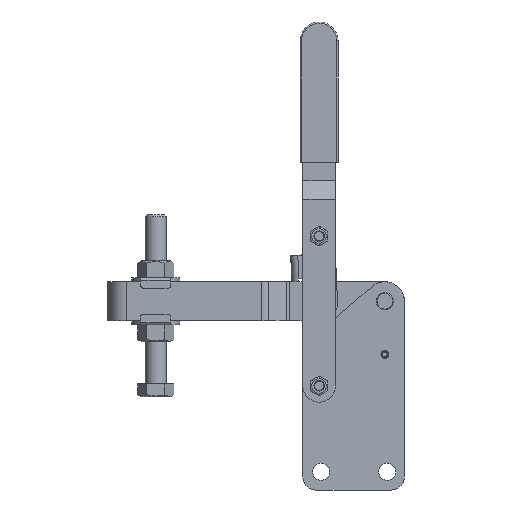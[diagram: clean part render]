
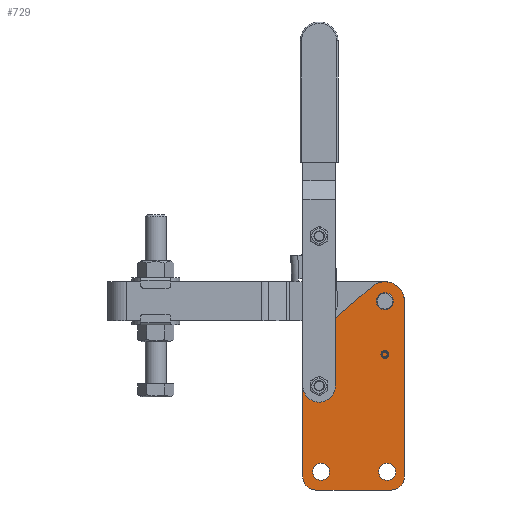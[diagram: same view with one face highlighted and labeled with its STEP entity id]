
A CAD part, front view. The second image highlights one B-rep face of the part: STEP entity #729.
In plain terms, the highlighted planar face has unit normal (0, -1, 0).
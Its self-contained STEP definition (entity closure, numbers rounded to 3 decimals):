
#614=CARTESIAN_POINT('Axis2P3D Location',(0.,-10.,0.)) ;
#619=CARTESIAN_POINT('Axis2P3D Location',(176.032,-10.,145.)) ;
#623=CARTESIAN_POINT('Cartesian Point',(191.032,-10.,145.)) ;
#625=CARTESIAN_POINT('Cartesian Point',(166.269,-10.,156.388)) ;
#628=CARTESIAN_POINT('Line Origine',(152.151,-10.,144.284)) ;
#632=CARTESIAN_POINT('Cartesian Point',(138.032,-10.,132.181)) ;
#635=CARTESIAN_POINT('Line Origine',(127.714,-10.,123.335)) ;
#639=CARTESIAN_POINT('Cartesian Point',(117.396,-10.,114.49)) ;
#642=CARTESIAN_POINT('Axis2P3D Location',(125.532,-10.,105.)) ;
#646=CARTESIAN_POINT('Cartesian Point',(113.032,-10.,105.)) ;
#649=CARTESIAN_POINT('Line Origine',(113.032,-10.,57.5)) ;
#653=CARTESIAN_POINT('Cartesian Point',(113.032,-10.,10.)) ;
#656=CARTESIAN_POINT('Axis2P3D Location',(123.032,-10.,10.)) ;
#660=CARTESIAN_POINT('Cartesian Point',(123.032,-10.,0.)) ;
#663=CARTESIAN_POINT('Line Origine',(152.032,-10.,0.)) ;
#667=CARTESIAN_POINT('Cartesian Point',(181.032,-10.,0.)) ;
#670=CARTESIAN_POINT('Axis2P3D Location',(181.032,-10.,10.)) ;
#674=CARTESIAN_POINT('Cartesian Point',(191.032,-10.,10.)) ;
#677=CARTESIAN_POINT('Line Origine',(191.032,-10.,77.5)) ;
#693=CARTESIAN_POINT('Axis2P3D Location',(127.032,-10.,14.)) ;
#697=CARTESIAN_POINT('Cartesian Point',(133.532,-10.,14.)) ;
#699=CARTESIAN_POINT('Cartesian Point',(120.532,-10.,14.)) ;
#702=CARTESIAN_POINT('Axis2P3D Location',(127.032,-10.,14.)) ;
#711=CARTESIAN_POINT('Axis2P3D Location',(177.832,-10.,14.)) ;
#715=CARTESIAN_POINT('Cartesian Point',(184.332,-10.,14.)) ;
#717=CARTESIAN_POINT('Cartesian Point',(171.332,-10.,14.)) ;
#720=CARTESIAN_POINT('Axis2P3D Location',(177.832,-10.,14.)) ;
#615=DIRECTION('Axis2P3D Direction',(0.,1.,0.)) ;
#616=DIRECTION('Axis2P3D XDirection',(0.,0.,-1.)) ;
#620=DIRECTION('Axis2P3D Direction',(0.,1.,0.)) ;
#629=DIRECTION('Vector Direction',(0.759,0.,0.651)) ;
#636=DIRECTION('Vector Direction',(0.759,0.,0.651)) ;
#643=DIRECTION('Axis2P3D Direction',(0.,1.,0.)) ;
#650=DIRECTION('Vector Direction',(0.,0.,1.)) ;
#657=DIRECTION('Axis2P3D Direction',(0.,1.,0.)) ;
#664=DIRECTION('Vector Direction',(1.,0.,0.)) ;
#671=DIRECTION('Axis2P3D Direction',(0.,1.,0.)) ;
#678=DIRECTION('Vector Direction',(0.,0.,1.)) ;
#694=DIRECTION('Axis2P3D Direction',(0.,1.,0.)) ;
#703=DIRECTION('Axis2P3D Direction',(0.,1.,0.)) ;
#712=DIRECTION('Axis2P3D Direction',(0.,1.,0.)) ;
#721=DIRECTION('Axis2P3D Direction',(0.,1.,0.)) ;
#617=AXIS2_PLACEMENT_3D('Plane Axis2P3D',#614,#615,#616) ;
#621=AXIS2_PLACEMENT_3D('Circle Axis2P3D',#619,#620,$) ;
#644=AXIS2_PLACEMENT_3D('Circle Axis2P3D',#642,#643,$) ;
#658=AXIS2_PLACEMENT_3D('Circle Axis2P3D',#656,#657,$) ;
#672=AXIS2_PLACEMENT_3D('Circle Axis2P3D',#670,#671,$) ;
#695=AXIS2_PLACEMENT_3D('Circle Axis2P3D',#693,#694,$) ;
#704=AXIS2_PLACEMENT_3D('Circle Axis2P3D',#702,#703,$) ;
#713=AXIS2_PLACEMENT_3D('Circle Axis2P3D',#711,#712,$) ;
#722=AXIS2_PLACEMENT_3D('Circle Axis2P3D',#720,#721,$) ;
#683=ORIENTED_EDGE('Oriented Edge',*,*,#627,.T.) ;
#684=ORIENTED_EDGE('Oriented Edge',*,*,#634,.F.) ;
#685=ORIENTED_EDGE('Oriented Edge',*,*,#641,.F.) ;
#686=ORIENTED_EDGE('Oriented Edge',*,*,#648,.T.) ;
#687=ORIENTED_EDGE('Oriented Edge',*,*,#655,.F.) ;
#688=ORIENTED_EDGE('Oriented Edge',*,*,#662,.T.) ;
#689=ORIENTED_EDGE('Oriented Edge',*,*,#669,.T.) ;
#690=ORIENTED_EDGE('Oriented Edge',*,*,#676,.T.) ;
#691=ORIENTED_EDGE('Oriented Edge',*,*,#681,.T.) ;
#708=ORIENTED_EDGE('Oriented Edge',*,*,#701,.F.) ;
#709=ORIENTED_EDGE('Oriented Edge',*,*,#706,.F.) ;
#726=ORIENTED_EDGE('Oriented Edge',*,*,#719,.F.) ;
#727=ORIENTED_EDGE('Oriented Edge',*,*,#724,.F.) ;
#710=FACE_BOUND('Face Bound',#707,.T.) ;
#728=FACE_BOUND('Face Bound',#725,.T.) ;
#630=VECTOR('Line Direction',#629,1.) ;
#637=VECTOR('Line Direction',#636,1.) ;
#651=VECTOR('Line Direction',#650,1.) ;
#665=VECTOR('Line Direction',#664,1.) ;
#679=VECTOR('Line Direction',#678,1.) ;
#729=ADVANCED_FACE('',(#692,#710,#728),#618,.F.) ;
#622=CIRCLE('generated circle',#621,15.) ;
#645=CIRCLE('generated circle',#644,12.5) ;
#659=CIRCLE('generated circle',#658,10.) ;
#673=CIRCLE('generated circle',#672,10.) ;
#696=CIRCLE('generated circle',#695,6.5) ;
#705=CIRCLE('generated circle',#704,6.5) ;
#714=CIRCLE('generated circle',#713,6.5) ;
#723=CIRCLE('generated circle',#722,6.5) ;
#627=EDGE_CURVE('',#624,#626,#622,.F.) ;
#634=EDGE_CURVE('',#633,#626,#631,.T.) ;
#641=EDGE_CURVE('',#640,#633,#638,.T.) ;
#648=EDGE_CURVE('',#640,#647,#645,.F.) ;
#655=EDGE_CURVE('',#654,#647,#652,.T.) ;
#662=EDGE_CURVE('',#654,#661,#659,.F.) ;
#669=EDGE_CURVE('',#661,#668,#666,.T.) ;
#676=EDGE_CURVE('',#668,#675,#673,.F.) ;
#681=EDGE_CURVE('',#675,#624,#680,.T.) ;
#701=EDGE_CURVE('',#698,#700,#696,.F.) ;
#706=EDGE_CURVE('',#700,#698,#705,.F.) ;
#719=EDGE_CURVE('',#716,#718,#714,.F.) ;
#724=EDGE_CURVE('',#718,#716,#723,.F.) ;
#682=EDGE_LOOP('Oriented Loop',(#683,#684,#685,#686,#687,#688,#689,#690,#691)) ;
#707=EDGE_LOOP('Oriented Loop',(#708,#709)) ;
#725=EDGE_LOOP('Oriented Loop',(#726,#727)) ;
#692=FACE_OUTER_BOUND('Face Bound',#682,.T.) ;
#631=LINE('Line',#628,#630) ;
#638=LINE('Line',#635,#637) ;
#652=LINE('Line',#649,#651) ;
#666=LINE('Line',#663,#665) ;
#680=LINE('Line',#677,#679) ;
#618=PLANE('Plane',#617) ;
#624=VERTEX_POINT('Vertex Point',#623) ;
#626=VERTEX_POINT('Vertex Point',#625) ;
#633=VERTEX_POINT('Vertex Point',#632) ;
#640=VERTEX_POINT('Vertex Point',#639) ;
#647=VERTEX_POINT('Vertex Point',#646) ;
#654=VERTEX_POINT('Vertex Point',#653) ;
#661=VERTEX_POINT('Vertex Point',#660) ;
#668=VERTEX_POINT('Vertex Point',#667) ;
#675=VERTEX_POINT('Vertex Point',#674) ;
#698=VERTEX_POINT('Vertex Point',#697) ;
#700=VERTEX_POINT('Vertex Point',#699) ;
#716=VERTEX_POINT('Vertex Point',#715) ;
#718=VERTEX_POINT('Vertex Point',#717) ;
